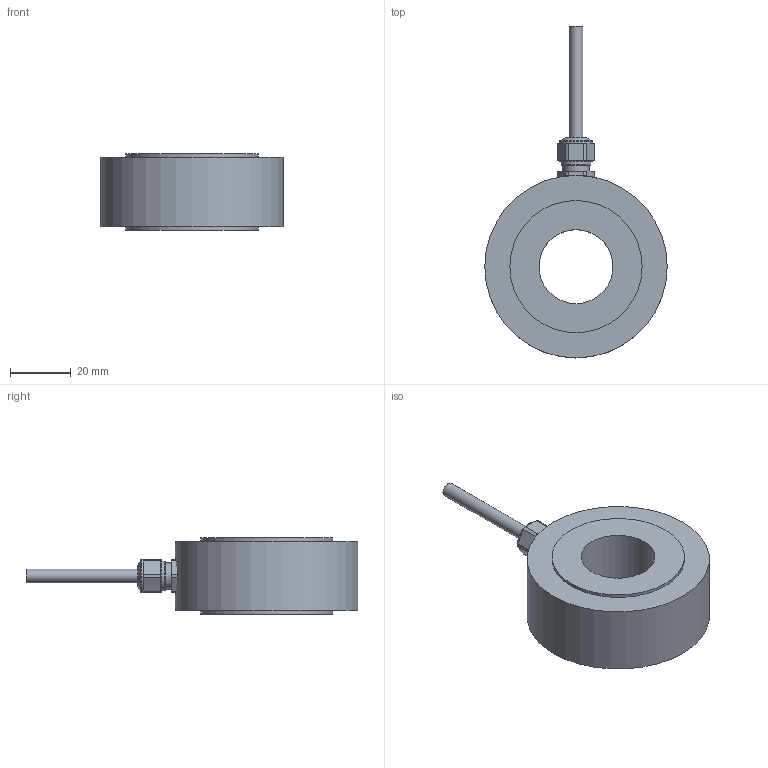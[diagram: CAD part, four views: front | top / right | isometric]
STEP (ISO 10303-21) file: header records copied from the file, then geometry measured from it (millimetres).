
FILE_DESCRIPTION(/* description */ (''),/* implementation_level */ '2;1');
FILE_NAME(/* name */ 'I:/New Datasheets/STEP Models/Pending models/CCG-250kN-003-000.step',/* time_stamp */ '2019-08-16T13:44:36+01:00',/* author */ (''),/* organization */ (''),/* preprocessor_version */ 'ST-DEVELOPER v18',/* originating_system */ 'Autodesk Translation Framework v8.6.0.1094',/* authorisation */ '');
FILE_SCHEMA (('AUTOMOTIVE_DESIGN { 1 0 10303 214 3 1 1 }'));
Length unit declared in the file: millimetre
Products named in the file (2): CCG-250kN-003-000 -; Component1
Assembly tree (1 placements, depth 2):
  CCG-250kN-003-000 -
    Component1
Bounding box: 60 x 109.13 x 25 mm (x, y, z)
Volume: 57796.1 mm3; surface area: 13218.6 mm2
Topology: 1 solids, 5 shells, 87 faces, 216 edges, 151 vertices
Faces by surface type: plane 34, cylinder 32, cone 12, torus 9
Full cylindrical faces by diameter (mm): 4.6 x2, 5.1 x1, 5.2 x1, 6.466 x2, 6.7 x1, 6.779 x2, 8.596 x1, 9 x1, 9.15 x1, 9.794 x1, 10.9 x2, 12.5 x1, 24.3 x1, 43.5 x2, 60 x1
Entity records: 2766 total; most frequent: CARTESIAN_POINT 515, DIRECTION 514, ORIENTED_EDGE 430, AXIS2_PLACEMENT_3D 223, EDGE_CURVE 215, VERTEX_POINT 151, CIRCLE 133, EDGE_LOOP 108
